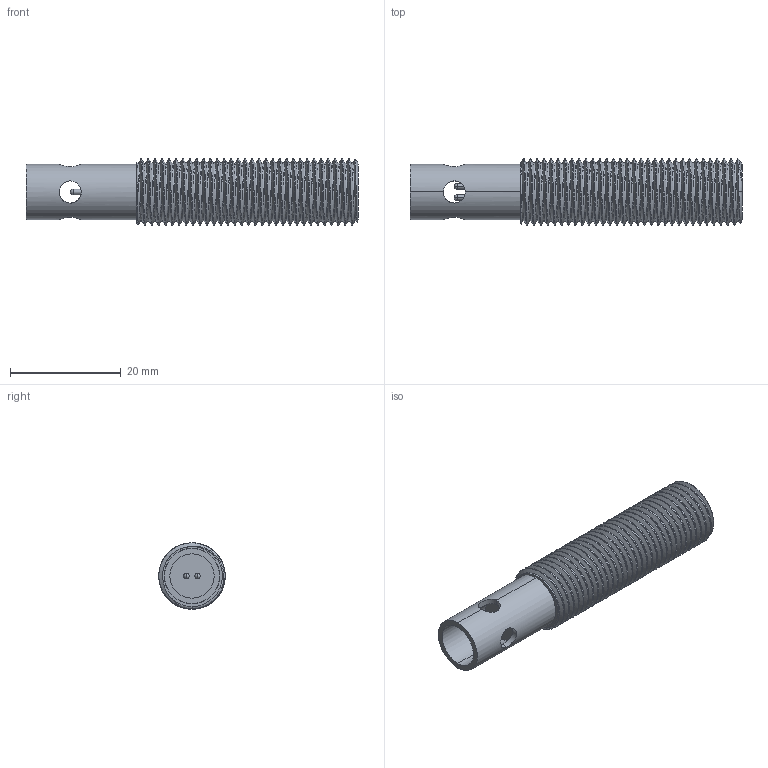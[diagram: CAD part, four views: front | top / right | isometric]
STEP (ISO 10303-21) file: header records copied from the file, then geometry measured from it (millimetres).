
FILE_DESCRIPTION (( 'STEP AP203' ), '1' );
FILE_NAME ('F4.2.step', '2023-09-11T20:20:06', ( '' ), ( '' ), 'SwSTEP 2.0', 'SolidWorks 2022', '' );
FILE_SCHEMA (( 'CONFIG_CONTROL_DESIGN' ));
Length unit declared in the file: millimetre
Products named in the file (1): F4.2
Bounding box: 60 x 12 x 12 mm (x, y, z)
Volume: 4938.9 mm3; surface area: 3352.6 mm2
Topology: 1 solids, 1 shells, 95 faces, 276 edges, 179 vertices
Faces by surface type: cylinder 79, torus 5, sphere 4, plane 4, bspline 3
Entity records: 21271 total; most frequent: CARTESIAN_POINT 19079, ORIENTED_EDGE 536, DIRECTION 330, EDGE_CURVE 268, VERTEX_POINT 175, AXIS2_PLACEMENT_3D 124, EDGE_LOOP 103, ADVANCED_FACE 95
